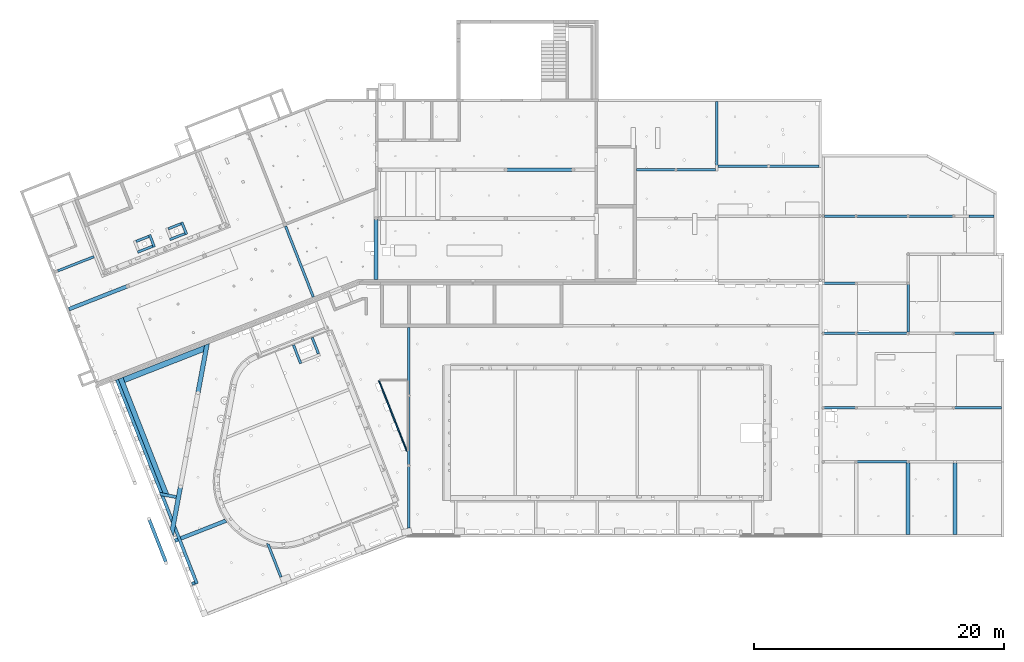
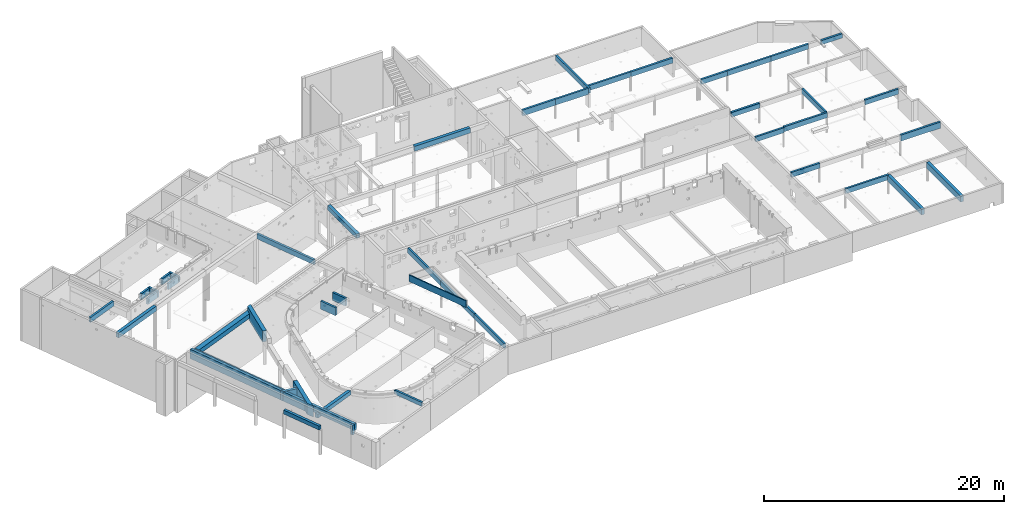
# One storey, part 5 of 28: 47 beams.
"""IFC2X3 building model written with IfcOpenShell, lengths in metres."""

from ifc_helpers import new_model, entity, si_unit, converted_unit, direction, frame, frame_2d, origin, place, context, subcontext, project, spatial, rectangle, extrude, faceted_brep, material, element, save


model = new_model("IFC2X3")

# Units and contexts
model_context = context("Model", 3, precision=1e-05, world=origin(), true_north=direction((-0.407059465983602, -0.913401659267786)))
body_context = subcontext(model_context, "Body", "Model", "MODEL_VIEW")
ifc_project = project(units=[si_unit("LENGTHUNIT", "METRE"), si_unit("AREAUNIT", "SQUARE_METRE"), si_unit("VOLUMEUNIT", "CUBIC_METRE"), si_unit("MASSUNIT", "GRAM", prefix="KILO"), converted_unit("PLANEANGLEUNIT", "DEGREE", entity("IfcPlaneAngleMeasure", 0.0174532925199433), si_unit("PLANEANGLEUNIT", "RADIAN"), dimensions=[0, 0, 0, 0, 0, 0, 0])], contexts=[model_context])

# Site, buildings, storey
site_placement = place(None, origin())
site = spatial("IfcSite", under=ifc_project, at=site_placement, Name="Site", CompositionType="ELEMENT")
building_1_placement = place(site_placement, origin())
building_1 = spatial("IfcBuilding", under=site, at=building_1_placement, Name="Site", CompositionType="COMPLEX")
building_2_placement = place(building_1_placement, origin())
building_2 = spatial("IfcBuilding", under=building_1, at=building_2_placement, Name="Bâtiments", CompositionType="ELEMENT")
storey_placement = place(building_2_placement, frame((0.0, 0.0, -5.3)))
storey = spatial("IfcBuildingStorey", under=building_2, at=storey_placement, Name="SOUS-SOL", CompositionType="ELEMENT", Elevation=-5.3)

# Beams
ifc_material_1 = material(Name="Béton")
beam_1_placement = place(storey_placement, frame((8.46249851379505, -2.07596403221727, 3.35)))
element("IfcBeam", 1, at=beam_1_placement, inside=storey, material=ifc_material_1, Name="PoR 00", context=body_context, shape_type="Brep", body=[
    faceted_brep([(1.09705352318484, 0.401758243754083, 0.0), (0.0730465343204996, 0.0, 0.0), (0.0730465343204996, 0.0, 0.62), (1.09705352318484, 0.401758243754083, 0.62), (0.0, 0.186183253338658, 0.0), (0.0, 0.186183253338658, 0.62), (1.02400516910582, 0.587938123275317, 0.0), (1.02400516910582, 0.587938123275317, 0.62)], [[[0, 1, 2, 3]], [[1, 4, 5, 2]], [[4, 6, 7, 5]], [[6, 0, 3, 7]], [[7, 3, 2, 5]], [[0, 6, 4, 1]]], orient=[[False], [False], [False], [False], [False], [False]]),
])
ifc_material_2 = material(Name="Béton")
beam_2_placement = place(storey_placement, frame((8.5867630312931, -2.94028939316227, 3.35)))
element("IfcBeam", 2, at=beam_2_placement, inside=storey, material=ifc_material_2, Name="PoR 00", context=body_context, shape_type="Brep", body=[
    faceted_brep([(0.0, 0.186183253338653, 0.0), (1.21020000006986, 0.660989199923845, 0.0), (1.21020000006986, 0.660989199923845, 0.62), (0.0, 0.186183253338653, 0.62), (1.28324925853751, 0.474807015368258, 0.0), (1.28324925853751, 0.474807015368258, 0.62), (0.073046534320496, 0.0, 0.0), (0.073046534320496, 0.0, 0.62)], [[[0, 1, 2, 3]], [[1, 4, 5, 2]], [[4, 6, 7, 5]], [[6, 0, 3, 7]], [[7, 3, 2, 5]], [[0, 6, 4, 1]]], orient=[[False], [False], [False], [False], [False], [False]]),
])
ifc_material_3 = material(Name="Béton")
beam_3_placement = place(storey_placement, frame((9.48650368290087, -2.46548237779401, 3.35)))
element("IfcBeam", 3, at=beam_3_placement, inside=storey, material=ifc_material_3, Name="PoR 00", context=body_context, shape_type="Brep", body=[
    faceted_brep([(0.383508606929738, 0.0, 0.0), (-1.81898940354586e-15, 0.977456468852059, 0.0), (-1.81898940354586e-15, 0.977456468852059, 0.62), (0.383508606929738, 0.0, 0.62), (0.186183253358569, 1.05050300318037, 0.0), (0.186183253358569, 1.05050300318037, 0.62), (0.569691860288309, 0.0730465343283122, 0.0), (0.569691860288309, 0.0730465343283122, 0.62)], [[[0, 1, 2, 3]], [[1, 4, 5, 2]], [[4, 6, 7, 5]], [[6, 0, 3, 7]], [[7, 3, 2, 5]], [[0, 6, 4, 1]]], orient=[[False], [False], [False], [False], [False], [False]]),
])
ifc_material_4 = material(Name="Béton")
beam_4_placement = place(storey_placement, frame((11.040818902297, -1.06551337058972, 3.35)))
element("IfcBeam", 4, at=beam_4_placement, inside=storey, material=ifc_material_4, Name="PoR 00", context=body_context, shape_type="Brep", body=[
    faceted_brep([(1.09705352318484, 0.401758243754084, 0.0), (0.0730465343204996, 0.0, 0.0), (0.0730465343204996, 0.0, 0.62), (1.09705352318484, 0.401758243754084, 0.62), (0.0, 0.186183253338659, 0.0), (0.0, 0.186183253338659, 0.62), (1.02400516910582, 0.587938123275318, 0.0), (1.02400516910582, 0.587938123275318, 0.62)], [[[0, 1, 2, 3]], [[1, 4, 5, 2]], [[4, 6, 7, 5]], [[6, 0, 3, 7]], [[7, 3, 2, 5]], [[0, 6, 4, 1]]], orient=[[False], [False], [False], [False], [False], [False]]),
])
ifc_material_5 = material(Name="Béton")
beam_5_placement = place(storey_placement, frame((11.165079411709, -1.92982851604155, 3.35)))
element("IfcBeam", 5, at=beam_5_placement, inside=storey, material=ifc_material_5, Name="PoR 00", context=body_context, shape_type="Brep", body=[
    faceted_brep([(0.0, 0.186183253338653, 0.0), (1.21020000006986, 0.660989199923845, 0.0), (1.21020000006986, 0.660989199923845, 0.62), (0.0, 0.186183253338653, 0.62), (1.28324925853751, 0.474807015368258, 0.0), (1.28324925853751, 0.474807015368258, 0.62), (0.073046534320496, 0.0, 0.0), (0.073046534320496, 0.0, 0.62)], [[[0, 1, 2, 3]], [[1, 4, 5, 2]], [[4, 6, 7, 5]], [[6, 0, 3, 7]], [[7, 3, 2, 5]], [[0, 6, 4, 1]]], orient=[[False], [False], [False], [False], [False], [False]]),
])
ifc_material_6 = material(Name="Béton")
beam_6_placement = place(storey_placement, frame((12.0648200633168, -1.45502150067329, 3.35)))
element("IfcBeam", 6, at=beam_6_placement, inside=storey, material=ifc_material_6, Name="PoR 00", context=body_context, shape_type="Brep", body=[
    faceted_brep([(0.383508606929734, 0.0, 0.0), (-1.81898940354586e-15, 0.977456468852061, 0.0), (-1.81898940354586e-15, 0.977456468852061, 0.62), (0.383508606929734, 0.0, 0.62), (0.186183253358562, 1.05050300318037, 0.0), (0.186183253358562, 1.05050300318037, 0.62), (0.569691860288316, 0.0730465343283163, 0.0), (0.569691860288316, 0.0730465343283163, 0.62)], [[[0, 1, 2, 3]], [[1, 4, 5, 2]], [[4, 6, 7, 5]], [[6, 0, 3, 7]], [[7, 3, 2, 5]], [[0, 6, 4, 1]]], orient=[[False], [False], [False], [False], [False], [False]]),
])
ifc_material_7 = material(Name="Béton")
beam_7_placement = place(storey_placement, frame((3.06777435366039, -7.55071424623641, 4.66)))
element("IfcBeam", 7, at=beam_7_placement, inside=storey, material=ifc_material_7, Name="Po 003", context=body_context, shape_type="Brep", body=[
    faceted_brep([(4.80907723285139, 1.84467783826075, 0.0), (0.109616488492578, 0.0, 0.0), (0.109616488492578, 0.0, 0.5), (4.80907723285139, 1.84467783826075, 0.5), (4.54747350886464e-16, 0.279256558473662, 0.0), (4.54747350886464e-16, 0.279256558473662, 0.5), (4.69948194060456, 2.12394271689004, 0.0), (4.69948194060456, 2.12394271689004, 0.5)], [[[0, 1, 2, 3]], [[1, 4, 5, 2]], [[4, 6, 7, 5]], [[6, 0, 3, 7]], [[7, 3, 2, 5]], [[0, 6, 4, 1]]], orient=[[False], [False], [False], [False], [False], [False]]),
])
ifc_material_8 = material(Name="Béton")
beam_8_placement = place(storey_placement, frame((20.3764150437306, -6.47274871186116, 4.66)))
element("IfcBeam", 8, at=beam_8_placement, inside=storey, material=ifc_material_8, Name="Po 008", context=body_context, shape_type="Brep", body=[
    faceted_brep([(0.186182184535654, 5.74322771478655, 0.0), (2.41089717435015, 0.0730497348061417, 0.0), (2.41089717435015, 0.0730497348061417, 0.5), (0.186182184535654, 5.74322771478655, 0.5), (2.2247151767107, 0.0, 0.0), (2.2247151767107, 0.0, 0.5), (0.0, 5.67017845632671, 0.0), (0.0, 5.67017845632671, 0.5)], [[[0, 1, 2, 3]], [[1, 4, 5, 2]], [[4, 6, 7, 5]], [[6, 0, 3, 7]], [[7, 3, 2, 5]], [[0, 6, 4, 1]]], orient=[[False], [False], [False], [False], [False], [False]]),
])
ifc_material_9 = material(Name="Béton")
beam_9_placement = place(storey_placement, frame((38.1184623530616, 3.60172911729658, 4.68), z_axis=(0.0, 0.0, 1.0), x_axis=(0.999999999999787, 6.52812039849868e-07, 0.0)))
element("IfcBeam", 9, at=beam_9_placement, inside=storey, material=ifc_material_9, Name="Po 014", context=body_context, shape_type="SweptSolid", body=[
    extrude(rectangle(XDim=0.3, YDim=0.5, at=frame_2d((0.15, 0.25), x_axis=(1.0, 0.0))), frame((0.0, 0.0, 0.0), z_axis=(1.0, 0.0, 0.0), x_axis=(0.0, 1.0, 0.0)), (0.0, 0.0, 1.0), 5.3738603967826),
])
ifc_material_10 = material(Name="Béton")
beam_10_placement = place(storey_placement, frame((9.40990386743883, -27.7905097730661, 4.88)))
element("IfcBeam", 10, at=beam_10_placement, inside=storey, material=ifc_material_10, Name="Po 066", context=body_context, shape_type="Brep", body=[
    faceted_brep([(1.39092136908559, 0.0, 0.0), (0.0, 3.54711656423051, 0.0), (0.0, 3.54711656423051, 0.4), (1.39092136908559, 0.0, 0.4), (0.23274980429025, 3.63837185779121, 0.0), (0.23274980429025, 3.63837185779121, 0.4), (1.62366700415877, 0.0912659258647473, 0.0), (1.62366700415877, 0.0912659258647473, 0.4)], [[[0, 1, 2, 3]], [[1, 4, 5, 2]], [[4, 6, 7, 5]], [[6, 0, 3, 7]], [[7, 3, 2, 5]], [[0, 6, 4, 1]]], orient=[[False], [False], [False], [False], [False], [False]]),
])
ifc_material_11 = material(Name="Béton")
beam_11_placement = place(storey_placement, frame((30.2438886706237, -24.9677776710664, 4.66)))
element("IfcBeam", 11, at=beam_11_placement, inside=storey, material=ifc_material_11, Name="Po 076", context=body_context, shape_type="Brep", body=[
    faceted_brep([(0.200055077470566, 5.02649623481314, 0.0), (0.200000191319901, 0.0410144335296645, 0.0), (0.200000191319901, 0.0410144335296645, 0.5), (0.200055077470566, 5.02649623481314, 0.5), (0.0, 0.0, 0.0), (0.0, 0.0, 0.5), (5.53377108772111e-05, 5.02649843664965, 0.0), (5.53377108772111e-05, 5.02649843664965, 0.5)], [[[0, 1, 2, 3]], [[1, 4, 5, 2]], [[4, 6, 7, 5]], [[6, 0, 3, 7]], [[7, 3, 2, 5]], [[0, 6, 4, 1]]], orient=[[False], [False], [False], [False], [False], [False]]),
])
ifc_material_12 = material(Name="Béton")
beam_12_placement = place(storey_placement, frame((30.2439440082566, -19.9412814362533, 4.66)))
element("IfcBeam", 12, at=beam_12_placement, inside=storey, material=ifc_material_12, Name="Po 077", context=body_context, shape_type="Brep", body=[
    faceted_brep([(0.200022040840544, 5.60365210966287, 0.0), (0.199999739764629, -3.63797880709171e-15, 0.0), (0.199999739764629, -3.63797880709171e-15, 0.5), (0.200022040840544, 5.60365210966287, 0.5), (0.0, 2.20183650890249e-06, 0.0), (0.0, 2.20183650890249e-06, 0.5), (2.23010703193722e-05, 5.60365290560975, 0.0), (2.23010703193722e-05, 5.60365290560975, 0.5)], [[[0, 1, 2, 3]], [[1, 4, 5, 2]], [[4, 6, 7, 5]], [[6, 0, 3, 7]], [[7, 3, 2, 5]], [[0, 6, 4, 1]]], orient=[[False], [False], [False], [False], [False], [False]]),
])
ifc_material_13 = material(Name="Béton")
beam_13_placement = place(storey_placement, frame((30.2439668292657, -14.3376293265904, 4.66)))
element("IfcBeam", 13, at=beam_13_placement, inside=storey, material=ifc_material_13, Name="Po 078", context=body_context, shape_type="Brep", body=[
    faceted_brep([(0.200060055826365, 5.47869675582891, 0.0), (0.199999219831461, 0.0, 0.0), (0.199999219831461, 0.0, 0.5), (0.200060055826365, 5.47869675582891, 0.5), (0.0, 7.95944804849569e-07, 0.0), (0.0, 7.95944804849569e-07, 0.5), (6.03160666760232e-05, 5.47869895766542, 0.0), (6.03160666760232e-05, 5.47869895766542, 0.5)], [[[0, 1, 2, 3]], [[1, 4, 5, 2]], [[4, 6, 7, 5]], [[6, 0, 3, 7]], [[7, 3, 2, 5]], [[0, 6, 4, 1]]], orient=[[False], [False], [False], [False], [False], [False]]),
])
ifc_material_14 = material(Name="Béton")
beam_14_placement = place(storey_placement, frame((51.7385891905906, 3.65172912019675, 4.58), z_axis=(0.0, 0.0, 1.0), x_axis=(1.0, 4.53745668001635e-10, 0.0)))
element("IfcBeam", 14, at=beam_14_placement, inside=storey, material=ifc_material_14, Name="Po 017", context=body_context, shape_type="SweptSolid", body=[
    extrude(rectangle(XDim=0.2, YDim=0.6, at=frame_2d((0.1, 0.3), x_axis=(1.0, 0.0))), frame((0.0, 0.0, 0.0), z_axis=(1.0, 0.0, 0.0), x_axis=(0.0, 1.0, 0.0)), (0.0, 0.0, 1.0), 3.17389220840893),
])
ifc_material_15 = material(Name="Béton")
beam_15_placement = place(storey_placement, frame((59.1625551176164, 3.95588101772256, 4.68)))
element("IfcBeam", 15, at=beam_15_placement, inside=storey, material=ifc_material_15, Name="Po 019", context=body_context, shape_type="SweptSolid", body=[
    extrude(rectangle(XDim=0.2, YDim=0.5, at=frame_2d((0.1, 0.25), x_axis=(1.0, 0.0))), frame((0.0, 0.0, 0.0), z_axis=(1.0, 0.0, 0.0), x_axis=(0.0, 1.0, 0.0)), (0.0, 0.0, 1.0), 4.05083508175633),
])
ifc_material_16 = material(Name="Béton")
beam_16_placement = place(storey_placement, frame((48.5646969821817, 3.65172911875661, 4.58), z_axis=(0.0, 0.0, 1.0), x_axis=(1.0, 4.53745668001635e-10, 0.0)))
element("IfcBeam", 16, at=beam_16_placement, inside=storey, material=ifc_material_16, Name="Po 016", context=body_context, shape_type="SweptSolid", body=[
    extrude(rectangle(XDim=0.2, YDim=0.6, at=frame_2d((0.1, 0.3), x_axis=(1.0, 0.0))), frame((0.0, 0.0, 0.0), z_axis=(1.0, 0.0, 0.0), x_axis=(0.0, 1.0, 0.0)), (0.0, 0.0, 1.0), 3.17389220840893),
])
ifc_material_17 = material(Name="Béton")
beam_17_placement = place(storey_placement, frame((55.1124813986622, 3.65172912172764, 4.68), z_axis=(0.0, 0.0, 1.0), x_axis=(-4.53744523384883e-10, 1.0, 0.0)))
element("IfcBeam", 17, at=beam_17_placement, inside=storey, material=ifc_material_17, Name="Po 057", context=body_context, shape_type="SweptSolid", body=[
    extrude(rectangle(XDim=0.2, YDim=0.5, at=frame_2d((0.1, 0.25), x_axis=(1.0, 0.0))), frame((0.0, 0.0, 0.0), z_axis=(1.0, 0.0, 0.0), x_axis=(0.0, 1.0, 0.0)), (0.0, 0.0, 1.0), 5.55865818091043),
])
ifc_material_18 = material(Name="Béton")
beam_18_placement = place(storey_placement, frame((55.1124813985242, 3.95588101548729, 4.68), z_axis=(0.0, 0.0, 1.0), x_axis=(1.0, 4.53745646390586e-10, 0.0)))
element("IfcBeam", 18, at=beam_18_placement, inside=storey, material=ifc_material_18, Name="Po 018", context=body_context, shape_type="SweptSolid", body=[
    extrude(rectangle(XDim=0.2, YDim=0.5, at=frame_2d((0.1, 0.25), x_axis=(1.0, 0.0))), frame((0.0, 0.0, 0.0), z_axis=(1.0, 0.0, 0.0), x_axis=(0.0, 1.0, 0.0)), (0.0, 0.0, 1.0), 4.05007138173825),
])
ifc_material_19 = material(Name="Béton")
beam_19_placement = place(storey_placement, frame((63.6333924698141, -0.0482733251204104, 4.76)))
element("IfcBeam", 19, at=beam_19_placement, inside=storey, material=ifc_material_19, Name="Po 028", context=body_context, shape_type="SweptSolid", body=[
    extrude(rectangle(XDim=0.200000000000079, YDim=0.5, at=frame_2d((0.100000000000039, 0.25), x_axis=(1.0, 0.0))), frame((0.0, 0.0, 0.0), z_axis=(1.0, 0.0, 0.0), x_axis=(0.0, 1.0, 0.0)), (0.0, 0.0, 1.0), 2.53955278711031),
])
ifc_material_20 = material(Name="Béton")
beam_20_placement = place(storey_placement, frame((66.1732549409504, -0.048274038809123, 4.76)))
element("IfcBeam", 20, at=beam_20_placement, inside=storey, material=ifc_material_20, Name="Po 029", context=body_context, shape_type="SweptSolid", body=[
    extrude(rectangle(XDim=0.200000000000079, YDim=0.5, at=frame_2d((0.100000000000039, 0.25), x_axis=(1.0, 0.0))), frame((0.0, 0.0, 0.0), z_axis=(1.0, 0.0, 0.0), x_axis=(0.0, 1.0, 0.0)), (0.0, 0.0, 1.0), 4.16),
])
ifc_material_21 = material(Name="Béton")
beam_21_placement = place(storey_placement, frame((73.9428662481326, -19.7400241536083, 4.58), z_axis=(0.0, 0.0, 1.0), x_axis=(4.47630769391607e-05, -0.999999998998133, 0.0)))
element("IfcBeam", 21, at=beam_21_placement, inside=storey, material=ifc_material_21, Name="Po 065", context=body_context, shape_type="SweptSolid", body=[
    extrude(rectangle(XDim=0.300000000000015, YDim=0.6, at=frame_2d((0.150000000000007, 0.3), x_axis=(1.0, 0.0))), frame((0.0, 0.0, 0.0), z_axis=(1.0, 0.0, 0.0), x_axis=(0.0, 1.0, 0.0)), (0.0, 0.0, 1.0), 5.70491087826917),
])
ifc_material_22 = material(Name="Béton")
beam_22_placement = place(storey_placement, frame((70.1828592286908, -19.7400241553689, 4.58), z_axis=(0.0, 0.0, 1.0), x_axis=(4.47630769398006e-05, -0.999999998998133, 0.0)))
element("IfcBeam", 22, at=beam_22_placement, inside=storey, material=ifc_material_22, Name="Po 062", context=body_context, shape_type="SweptSolid", body=[
    extrude(rectangle(XDim=0.3, YDim=0.6, at=frame_2d((0.15, 0.3), x_axis=(1.0, 0.0))), frame((0.0, 0.0, 0.0), z_axis=(1.0, 0.0, 0.0), x_axis=(0.0, 1.0, 0.0)), (0.0, 0.0, 1.0), 5.70491534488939),
])
ifc_material_23 = material(Name="Béton")
beam_23_placement = place(storey_placement, frame((70.3328595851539, -19.5400951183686, 4.68), z_axis=(0.0, 0.0, 1.0), x_axis=(-0.999999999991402, -4.14692370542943e-06, 0.0)))
element("IfcBeam", 23, at=beam_23_placement, inside=storey, material=ifc_material_23, Name="Po 054", context=body_context, shape_type="SweptSolid", body=[
    extrude(rectangle(XDim=0.19999973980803, YDim=0.5, at=frame_2d((0.0999998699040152, 0.25), x_axis=(1.0, 0.0))), frame((0.0, 0.0, 0.0), z_axis=(1.0, 0.0, 0.0), x_axis=(0.0, 1.0, 0.0)), (0.0, 0.0, 1.0), 4.15991475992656),
])
ifc_material_24 = material(Name="Béton")
beam_24_placement = place(storey_placement, frame((70.3332550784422, -0.0482732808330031, 4.76), z_axis=(0.0, 0.0, 1.0), x_axis=(0.99999999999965, 8.36314507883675e-07, 0.0)))
element("IfcBeam", 24, at=beam_24_placement, inside=storey, material=ifc_material_24, Name="Po 030", context=body_context, shape_type="SweptSolid", body=[
    extrude(rectangle(XDim=0.19999848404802, YDim=0.5, at=frame_2d((0.0999992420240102, 0.25), x_axis=(1.0, 0.0))), frame((0.0, 0.0, 0.0), z_axis=(1.0, 0.0, 0.0), x_axis=(0.0, 1.0, 0.0)), (0.0, 0.0, 1.0), 3.64889618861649),
])
ifc_material_25 = material(Name="Béton")
beam_25_placement = place(storey_placement, frame((75.1973031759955, -0.0482720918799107, 4.76), z_axis=(0.0, 0.0, 1.0), x_axis=(0.999999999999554, -9.44452764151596e-07, 0.0)))
element("IfcBeam", 25, at=beam_25_placement, inside=storey, material=ifc_material_25, Name="Po 031", context=body_context, shape_type="SweptSolid", body=[
    extrude(rectangle(XDim=0.199999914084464, YDim=0.42, at=frame_2d((0.0999999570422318, 0.21), x_axis=(1.0, 0.0))), frame((0.0, 0.0, 0.0), z_axis=(1.0, 0.0, 0.0), x_axis=(0.0, 1.0, 0.0)), (0.0, 0.0, 1.0), 2.01595178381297),
])
ifc_material_26 = material(Name="Béton")
beam_26_placement = place(storey_placement, frame((63.4333903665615, -5.43896683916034, 4.76), z_axis=(0.0, 0.0, 1.0), x_axis=(0.999999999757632, -2.20167412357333e-05, 0.0)))
element("IfcBeam", 26, at=beam_26_placement, inside=storey, material=ifc_material_26, Name="Po 038", context=body_context, shape_type="SweptSolid", body=[
    extrude(rectangle(XDim=0.199999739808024, YDim=0.5, at=frame_2d((0.099999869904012, 0.25), x_axis=(1.0, 0.0))), frame((0.0, 0.0, 0.0), z_axis=(1.0, 0.0, 0.0), x_axis=(0.0, 1.0, 0.0)), (0.0, 0.0, 1.0), 2.73955657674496),
])
ifc_material_27 = material(Name="Béton")
beam_27_placement = place(storey_placement, frame((73.9928629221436, -15.4131065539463, 4.68), z_axis=(0.0, 0.0, 1.0), x_axis=(0.999999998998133, 4.47630769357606e-05, 0.0)))
element("IfcBeam", 27, at=beam_27_placement, inside=storey, material=ifc_material_27, Name="Po 052", context=body_context, shape_type="SweptSolid", body=[
    extrude(rectangle(XDim=0.199999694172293, YDim=0.62, at=frame_2d((0.0999998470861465, 0.31), x_axis=(1.0, 0.0))), frame((0.0, 0.0, 0.0), z_axis=(1.0, 0.0, 0.0), x_axis=(0.0, 1.0, 0.0)), (0.0, 0.0, 1.0), 3.82024779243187),
])
ifc_material_28 = material(Name="Béton")
beam_28_placement = place(storey_placement, frame((63.4333599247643, -9.4574381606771, 4.68), z_axis=(0.0, 0.0, 1.0), x_axis=(0.999999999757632, -2.20167412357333e-05, 0.0)))
element("IfcBeam", 28, at=beam_28_placement, inside=storey, material=ifc_material_28, Name="Po 045", context=body_context, shape_type="SweptSolid", body=[
    extrude(rectangle(XDim=0.199999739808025, YDim=0.5, at=frame_2d((0.0999998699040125, 0.25), x_axis=(1.0, 0.0))), frame((0.0, 0.0, 0.0), z_axis=(1.0, 0.0, 0.0), x_axis=(0.0, 1.0, 0.0)), (0.0, 0.0, 1.0), 2.73955657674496),
])
ifc_material_29 = material(Name="Béton")
beam_29_placement = place(storey_placement, frame((70.3328315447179, -9.25745982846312, 4.76), z_axis=(0.0, 0.0, 1.0), x_axis=(-0.99999999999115, 4.20711991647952e-06, 0.0)))
element("IfcBeam", 29, at=beam_29_placement, inside=storey, material=ifc_material_29, Name="Po 046", context=body_context, shape_type="SweptSolid", body=[
    extrude(rectangle(XDim=0.199999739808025, YDim=0.5, at=frame_2d((0.0999998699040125, 0.25), x_axis=(1.0, 0.0))), frame((0.0, 0.0, 0.0), z_axis=(1.0, 0.0, 0.0), x_axis=(0.0, 1.0, 0.0)), (0.0, 0.0, 1.0), 4.15988586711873),
])
ifc_material_30 = material(Name="Béton")
beam_30_placement = place(storey_placement, frame((70.4327354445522, -9.25746216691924, 4.76), z_axis=(0.0, 0.0, 1.0), x_axis=(4.80672258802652e-05, 0.999999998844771, 0.0)))
element("IfcBeam", 30, at=beam_30_placement, inside=storey, material=ifc_material_30, Name="Po 063", context=body_context, shape_type="SweptSolid", body=[
    extrude(rectangle(XDim=0.199964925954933, YDim=0.5, at=frame_2d((0.0999824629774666, 0.25), x_axis=(1.0, 0.0))), frame((0.0, 0.0, 0.0), z_axis=(1.0, 0.0, 0.0), x_axis=(0.0, 1.0, 0.0)), (0.0, 0.0, 1.0), 3.91847533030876),
])
ifc_material_31 = material(Name="Béton")
beam_31_placement = place(storey_placement, frame((73.9928369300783, -9.45728950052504, 4.76), z_axis=(0.0, 0.0, 1.0), x_axis=(0.999999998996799, 4.47928791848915e-05, 0.0)))
element("IfcBeam", 31, at=beam_31_placement, inside=storey, material=ifc_material_31, Name="Po 048", context=body_context, shape_type="SweptSolid", body=[
    extrude(rectangle(XDim=0.199999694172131, YDim=0.5, at=frame_2d((0.0999998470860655, 0.25), x_axis=(1.0, 0.0))), frame((0.0, 0.0, 0.0), z_axis=(1.0, 0.0, 0.0), x_axis=(0.0, 1.0, 0.0)), (0.0, 0.0, 1.0), 3.22042260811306),
])
ifc_material_32 = material(Name="Béton")
beam_32_placement = place(storey_placement, frame((18.9342718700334, -28.9079350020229, 4.76)))
element("IfcBeam", 32, at=beam_32_placement, inside=storey, material=ifc_material_32, Name="Po 073", context=body_context, shape_type="Brep", body=[
    faceted_brep([(0.233620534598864, 2.691810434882, 0.0), (1.26110869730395, 0.0730495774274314, 0.0), (1.26110869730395, 0.0730495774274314, 0.4), (0.233620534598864, 2.691810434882, 0.4), (1.07492711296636, 0.0, 0.0), (1.07492711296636, 0.0, 0.4), (0.0, 2.73966859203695, 0.0), (0.0, 2.73966859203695, 0.4)], [[[0, 1, 2, 3]], [[1, 4, 5, 2]], [[4, 6, 7, 5]], [[6, 0, 3, 7]], [[7, 3, 2, 5]], [[0, 6, 4, 1]]], orient=[[False], [False], [False], [False], [False], [False]]),
])
ifc_material_33 = material(Name="Béton")
beam_33_placement = place(storey_placement, frame((27.8974957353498, -18.8042237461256, 5.16)))
element("IfcBeam", 33, at=beam_33_placement, inside=storey, material=ifc_material_33, Name="Po 084", context=body_context, shape_type="Brep", body=[
    faceted_brep([(2.22802271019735, 0.0, 0.0), (0.0, 5.66715139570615, 0.0), (0.0, 5.66715139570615, 0.67), (2.22802271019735, 0.0, 0.67), (0.00895073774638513, 5.68007855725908, 0.0), (0.00895073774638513, 5.68007855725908, 0.67), (0.113113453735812, 5.68007855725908, 0.0), (0.113113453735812, 5.68007855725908, 0.67), (2.33039527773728, 0.0402474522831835, 0.0), (2.33039527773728, 0.0402474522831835, 0.67)], [[[0, 1, 2, 3]], [[1, 4, 5, 2]], [[4, 6, 7, 5]], [[6, 8, 9, 7]], [[8, 0, 3, 9]], [[9, 3, 2, 5, 7]], [[0, 8, 6, 4, 1]]], orient=[[False], [False], [False], [False], [False], [False], [False]]),
])
ifc_material_34 = material(Name="Béton")
beam_34_placement = place(storey_placement, frame((12.9311297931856, -29.5380639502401, 4.66)))
element("IfcBeam", 34, at=beam_34_placement, inside=storey, material=ifc_material_34, Name="PoR 00", context=body_context, shape_type="Brep", body=[
    faceted_brep([(-1.81898940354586e-15, 0.232727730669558, 0.0), (0.232727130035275, 0.324039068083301, 0.0), (0.232727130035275, 0.324039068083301, 0.97), (-1.81898940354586e-15, 0.232727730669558, 0.97), (0.324039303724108, 0.0913115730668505, 0.0), (0.324039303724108, 0.0913115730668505, 0.97), (0.0913115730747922, 0.0, 0.0), (0.0913115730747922, 0.0, 0.97)], [[[0, 1, 2, 3]], [[1, 4, 5, 2]], [[4, 6, 7, 5]], [[6, 0, 3, 7]], [[7, 3, 2, 5]], [[0, 6, 4, 1]]], orient=[[False], [False], [False], [False], [False], [False]]),
])
ifc_material_35 = material(Name="Béton")
beam_35_placement = place(storey_placement, frame((11.2418770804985, -25.6324674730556, 4.66)))
element("IfcBeam", 35, at=beam_35_placement, inside=storey, material=ifc_material_35, Name="PoR 069", context=body_context, shape_type="Brep", body=[
    faceted_brep([(0.989235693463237, 3.97114681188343, 0.0), (0.248177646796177, -3.63797880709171e-15, 0.0), (0.248177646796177, -3.63797880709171e-15, 1.12), (0.989235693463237, 3.97114681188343, 1.12), (0.0, 0.632530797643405, 0.0), (0.0, 0.632530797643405, 1.12), (0.635344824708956, 4.03718659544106, 0.0), (0.635344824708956, 4.03718659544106, 1.12)], [[[0, 1, 2, 3]], [[1, 4, 5, 2]], [[4, 6, 7, 5]], [[6, 0, 3, 7]], [[7, 3, 2, 5]], [[0, 6, 4, 1]]], orient=[[False], [False], [False], [False], [False], [False]]),
])
ifc_material_36 = material(Name="Béton")
beam_36_placement = place(storey_placement, frame((6.84391186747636, -24.5360858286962, 4.66)))
element("IfcBeam", 36, at=beam_36_placement, inside=storey, material=ifc_material_36, Name="PoR 00", context=body_context, shape_type="Brep", body=[
    faceted_brep([(0.232727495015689, 11.5210280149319, 0.0), (0.232727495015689, 11.5210280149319, 0.97), (9.09494701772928e-16, 11.4297158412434, 0.97), (9.09494701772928e-16, 11.4297158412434, 0.0), (3.80972443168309, 2.40432973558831, 0.0), (3.80972443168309, 2.40432973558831, 0.97), (3.51995358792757, 2.45840404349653, 0.0), (3.51995358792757, 2.45840404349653, 0.97), (3.91738991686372, 2.12992252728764, 0.0), (3.91738991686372, 2.12992252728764, 0.97), (3.62761907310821, 2.18399683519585, 0.97), (3.62761907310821, 2.18399683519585, 0.0), (4.57108417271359, 0.463850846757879, 0.0), (4.57108417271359, 0.463850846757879, 0.97), (4.48452469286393, 0.0, 0.0), (4.48452469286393, 0.0, 0.97)], [[[0, 1, 2, 3]], [[4, 5, 1, 0]], [[6, 7, 5, 4]], [[3, 2, 7, 6]], [[2, 1, 5, 7]], [[3, 6, 4, 0]], [[8, 9, 10, 11]], [[12, 13, 9, 8]], [[14, 15, 13, 12]], [[11, 10, 15, 14]], [[10, 9, 13, 15]], [[11, 14, 12, 8]]], orient=[[False], [False], [False], [False], [False], [False], [False], [False], [False], [False], [False], [False]]),
])
ifc_material_37 = material(Name="Béton")
beam_37_placement = place(storey_placement, frame((10.3638654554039, -22.5801105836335, 4.66)))
element("IfcBeam", 37, at=beam_37_placement, inside=storey, material=ifc_material_37, Name="PoR 00", context=body_context, shape_type="Brep", body=[
    faceted_brep([(1.32957679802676, 0.0, 0.0), (0.107665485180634, 0.228021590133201, 0.0), (0.107665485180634, 0.228021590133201, 0.97), (1.32957679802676, 0.0, 0.97), (0.0, 0.502428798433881, 0.0), (0.0, 0.502428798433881, 0.97), (1.37543775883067, 0.245757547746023, 0.0), (1.37543775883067, 0.245757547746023, 0.97)], [[[0, 1, 2, 3]], [[1, 4, 5, 2]], [[4, 6, 7, 5]], [[6, 0, 3, 7]], [[7, 3, 2, 5]], [[0, 6, 4, 1]]], orient=[[False], [False], [False], [False], [False], [False]]),
])
ifc_material_38 = material(Name="Béton")
beam_38_placement = place(storey_placement, frame((11.5765986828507, -29.4467523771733, 4.96)))
element("IfcBeam", 38, at=beam_38_placement, inside=storey, material=ifc_material_38, Name="PoR 00", context=body_context, shape_type="Brep", body=[
    faceted_brep([(1.67857041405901, 0.0, 0.0), (0.0, 4.27817531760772, 0.0), (0.0, 4.27817531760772, 0.67), (1.67857041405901, 0.0, 0.67), (0.0865650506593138, 4.74201196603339, 0.0), (0.0865650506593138, 4.74201196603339, 0.67), (1.91129814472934, 0.0913115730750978, 0.0), (1.91129814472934, 0.0913115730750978, 0.67)], [[[0, 1, 2, 3]], [[1, 4, 5, 2]], [[4, 6, 7, 5]], [[6, 0, 3, 7]], [[7, 3, 2, 5]], [[0, 6, 4, 1]]], orient=[[False], [False], [False], [False], [False], [False]]),
])
ifc_material_39 = material(Name="Béton")
beam_39_placement = place(storey_placement, frame((7.07663936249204, -22.218274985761, 4.91)))
element("IfcBeam", 39, at=beam_39_placement, inside=storey, material=ifc_material_39, Name="PoR 00", context=body_context, shape_type="Brep", body=[
    faceted_brep([(0.372363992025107, 9.34931664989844, 0.0), (4.04063028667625, 0.0, 0.0), (4.04063028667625, 0.0, 0.47), (0.372363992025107, 9.34931664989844, 0.47), (3.5769969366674, 0.0865188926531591, 0.0), (3.5769969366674, 0.0865188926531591, 0.47), (-9.09494701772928e-16, 9.20321717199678, 0.0), (-9.09494701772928e-16, 9.20321717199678, 0.47)], [[[0, 1, 2, 3]], [[1, 4, 5, 2]], [[4, 6, 7, 5]], [[6, 0, 3, 7]], [[7, 3, 2, 5]], [[0, 6, 4, 1]]], orient=[[False], [False], [False], [False], [False], [False]]),
])
ifc_material_40 = material(Name="Béton")
beam_40_placement = place(storey_placement, frame((7.44900335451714, -13.2878678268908, 4.91)))
element("IfcBeam", 40, at=beam_40_placement, inside=storey, material=ifc_material_40, Name="PoR 00", context=body_context, shape_type="Brep", body=[
    faceted_brep([(6.43779758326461, 2.46142402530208, 0.0), (0.16436191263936, 0.0, 0.0), (0.16436191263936, 0.0, 0.47), (6.43779758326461, 2.46142402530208, 0.47), (0.0, 0.418909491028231, 0.0), (0.0, 0.418909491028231, 0.47), (6.53513133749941, 2.98301154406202, 0.0), (6.53513133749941, 2.98301154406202, 0.47)], [[[0, 1, 2, 3]], [[1, 4, 5, 2]], [[4, 6, 7, 5]], [[6, 0, 3, 7]], [[7, 3, 2, 5]], [[0, 6, 4, 1]]], orient=[[False], [False], [False], [False], [False], [False]]),
])
ifc_material_41 = material(Name="Béton")
beam_41_placement = place(storey_placement, frame((13.2827293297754, -14.1295539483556, 4.66)))
element("IfcBeam", 41, at=beam_41_placement, inside=storey, material=ifc_material_41, Name="PoR 072", context=body_context, shape_type="Brep", body=[
    faceted_brep([(1.09655174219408, 3.97973596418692, 0.0), (0.353890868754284, 0.0, 0.0), (0.353890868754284, 0.0, 1.12), (1.09655174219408, 3.97973596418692, 1.12), (0.0, 0.0660397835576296, 0.0), (0.0, 0.0660397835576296, 1.12), (0.701405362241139, 3.82469766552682, 0.0), (0.701405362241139, 3.82469766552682, 1.12)], [[[0, 1, 2, 3]], [[1, 4, 5, 2]], [[4, 6, 7, 5]], [[6, 0, 3, 7]], [[7, 3, 2, 5]], [[0, 6, 4, 1]]], orient=[[False], [False], [False], [False], [False], [False]]),
])
ifc_material_42 = material(Name="Béton")
beam_42_placement = place(storey_placement, frame((2.20284151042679, -4.43168911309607, 4.66)))
element("IfcBeam", 42, at=beam_42_placement, inside=storey, material=ifc_material_42, Name="Po 086", context=body_context, shape_type="Brep", body=[
    faceted_brep([(2.95906312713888, 1.1328349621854, 0.0), (0.0730776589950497, 0.0, 0.0), (0.0730776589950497, 0.0, 0.5), (2.95906312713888, 1.1328349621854, 0.5), (4.54747350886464e-16, 0.186171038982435, 0.0), (4.54747350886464e-16, 0.186171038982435, 0.5), (2.88601386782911, 1.31901714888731, 0.0), (2.88601386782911, 1.31901714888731, 0.5)], [[[0, 1, 2, 3]], [[1, 4, 5, 2]], [[4, 6, 7, 5]], [[6, 0, 3, 7]], [[7, 3, 2, 5]], [[0, 6, 4, 1]]], orient=[[False], [False], [False], [False], [False], [False]]),
])
ifc_material_43 = material(Name="Béton")
beam_43_placement = place(storey_placement, frame((22.5058606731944, -11.0226420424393, 3.06)))
element("IfcBeam", 43, at=beam_43_placement, inside=storey, material=ifc_material_43, Name="PoR 00", context=body_context, shape_type="Brep", body=[
    faceted_brep([(0.511347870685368, 0.0, 0.0), (0.0, 1.3032732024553, 0.0), (0.0, 1.3032732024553, 0.8), (0.511347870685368, 0.0, 0.8), (0.186180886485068, 1.37632237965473, 0.0), (0.186180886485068, 1.37632237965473, 0.8), (0.697528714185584, 0.073049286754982, 0.0), (0.697528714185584, 0.073049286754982, 0.8)], [[[0, 1, 2, 3]], [[1, 4, 5, 2]], [[4, 6, 7, 5]], [[6, 0, 3, 7]], [[7, 3, 2, 5]], [[0, 6, 4, 1]]], orient=[[False], [False], [False], [False], [False], [False]]),
])
ifc_material_44 = material(Name="Béton")
beam_44_placement = place(storey_placement, frame((21.0070964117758, -11.7968728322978, 3.06)))
element("IfcBeam", 44, at=beam_44_placement, inside=storey, material=ifc_material_44, Name="PoR 00", context=body_context, shape_type="Brep", body=[
    faceted_brep([(0.186180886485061, 1.56250410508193, 0.0), (0.770578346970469, 0.0730492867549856, 0.0), (0.770578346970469, 0.0730492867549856, 0.8), (0.186180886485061, 1.56250410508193, 0.8), (0.584397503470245, 0.0, 0.0), (0.584397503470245, 0.0, 0.8), (0.0, 1.4894549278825, 0.0), (0.0, 1.4894549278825, 0.8)], [[[0, 1, 2, 3]], [[1, 4, 5, 2]], [[4, 6, 7, 5]], [[6, 0, 3, 7]], [[7, 3, 2, 5]], [[0, 6, 4, 1]]], orient=[[False], [False], [False], [False], [False], [False]]),
])
ifc_material_45 = material(Name="Béton")
beam_45_placement = place(storey_placement, frame((27.5626147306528, -5.01889631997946, 4.71)))
element("IfcBeam", 45, at=beam_45_placement, inside=storey, material=ifc_material_45, Name="Po 010", context=body_context, shape_type="Brep", body=[
    faceted_brep([(0.300134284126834, 4.84999967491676, 0.0), (0.299999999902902, 0.0, 0.0), (0.299999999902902, 0.0, 0.45), (0.300134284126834, 4.84999967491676, 0.45), (0.0, 7.65979272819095e-06, 0.0), (0.0, 7.65979272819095e-06, 0.45), (0.000134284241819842, 4.85000798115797, 0.0), (0.000134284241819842, 4.85000798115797, 0.45)], [[[0, 1, 2, 3]], [[1, 4, 5, 2]], [[4, 6, 7, 5]], [[6, 0, 3, 7]], [[7, 3, 2, 5]], [[0, 6, 4, 1]]], orient=[[False], [False], [False], [False], [False], [False]]),
])
ifc_material_46 = material(Name="Béton")
beam_46_placement = place(storey_placement, frame((63.4333859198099, -15.4132552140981, 4.68), z_axis=(0.0, 0.0, 1.0), x_axis=(0.999999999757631, -2.20167412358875e-05, 0.0)))
element("IfcBeam", 46, at=beam_46_placement, inside=storey, material=ifc_material_46, Name="Po 049", context=body_context, shape_type="SweptSolid", body=[
    extrude(rectangle(XDim=0.199999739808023, YDim=0.5, at=frame_2d((0.0999998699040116, 0.25), x_axis=(1.0, 0.0))), frame((0.0, 0.0, 0.0), z_axis=(1.0, 0.0, 0.0), x_axis=(0.0, 1.0, 0.0)), (0.0, 0.0, 1.0), 2.73956181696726),
])
ifc_material_47 = material(Name="Béton")
beam_47_placement = place(storey_placement, frame((11.5610270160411, -26.0928859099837, 4.76)))
element("IfcBeam", 47, at=beam_47_placement, inside=storey, material=ifc_material_47, Name="Po 087", context=body_context, shape_type="Brep", body=[
    faceted_brep([(4.22314319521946, 1.61398587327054, 0.0), (0.109574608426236, -3.63797880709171e-15, 0.0), (0.109574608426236, -3.63797880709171e-15, 0.4), (4.22314319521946, 1.61398587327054, 0.4), (0.0, 0.279272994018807, 0.0), (0.0, 0.279272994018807, 0.4), (4.03873761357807, 1.8638984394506, 0.0), (4.03873761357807, 1.8638984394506, 0.4)], [[[0, 1, 2, 3]], [[1, 4, 5, 2]], [[4, 6, 7, 5]], [[6, 0, 3, 7]], [[7, 3, 2, 5]], [[0, 6, 4, 1]]], orient=[[False], [False], [False], [False], [False], [False]]),
])

save(model, "model.ifc")
